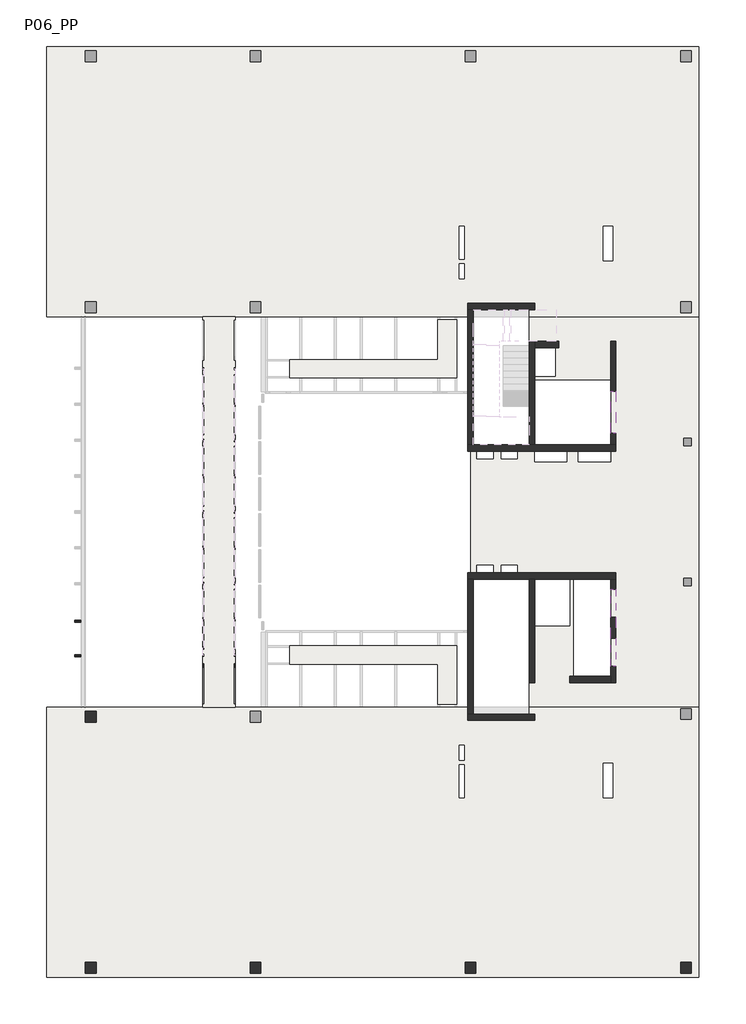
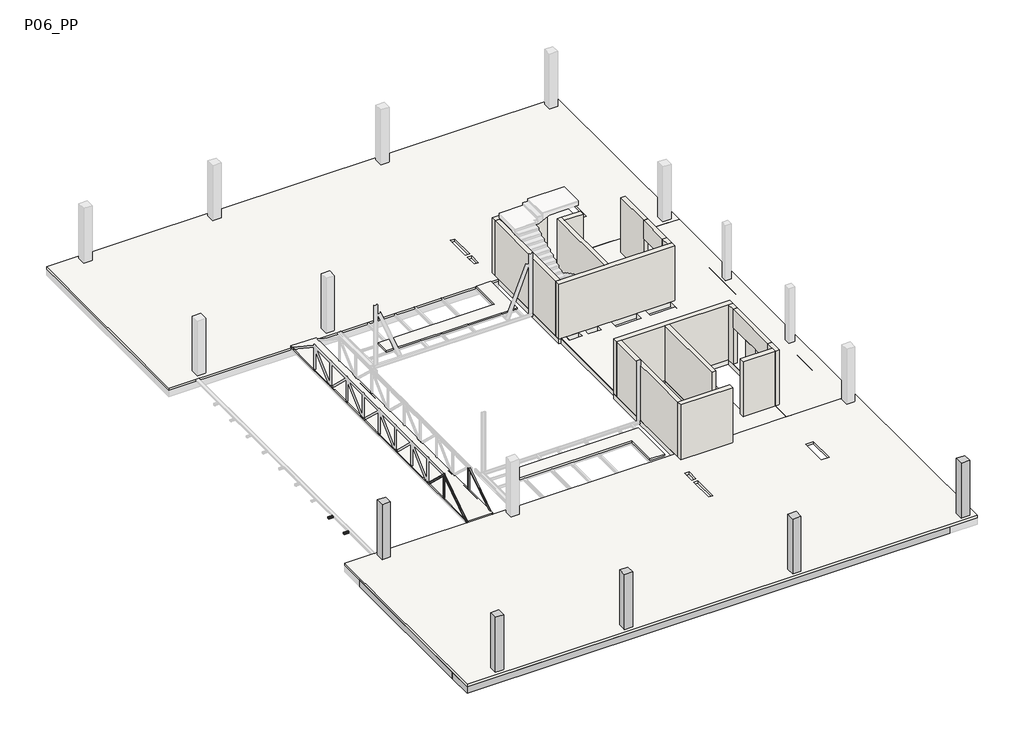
# One storey, part 1 of 4: 20 beams, 17 walls, 5 columns, 5 slabs.
"""IFC4 building model written with IfcOpenShell, lengths in millimetres."""

from ifc_helpers import new_model, si_unit, frame, origin, place, context, project, spatial, polyline, outline, extrude, faceted_brep, transform, mapped, element, save
from components import m_hss_rectangular_hss_100x100_2c18bcb8, m_hss_rectangular_hss_100x100_facdedd0, upn100x50_d5197bc7, upn100x50_71922e7b, upn100x50_7fc6c248, upn100x50_af2dad4c, upn100x50_5f90f948, upn100x50_d0d35084

model = new_model("IFC4")

# Units and contexts
model_context = context("Model", 3, world=origin())
ifc_project = project(units=[si_unit("LENGTHUNIT", "METRE", prefix="MILLI")], contexts=[model_context])

# Site, building, storey
site = spatial("IfcSite", under=ifc_project)
building = spatial("IfcBuilding", under=site)
storey = spatial("IfcBuildingStorey", under=building, Name="P06_PP", Elevation=29910.0)

# Beams
placement = place(None, origin())
element("IfcBeam", 1, ObjectType="M_Concrete-Rectangular Beam : 1500 x 550mm", at=placement, inside=storey, context=model_context, shape_type="Brep", body=[
    faceted_brep([(-33190.2931093, -17110.5871866, 29360.0), (-4553.6343046, -17110.5871866, 29360.0), (-4553.6343046, -17110.5871866, 29760.0), (-33190.2931093, -17110.5871866, 29760.0), (-33190.2931093, -15610.5871866, 29360.0), (-32490.2931093, -15610.5871866, 29360.0), (-31216.2708024, -15610.5871866, 29360.0), (-30816.2708024, -15610.5871866, 29360.0), (-29549.6041367, -15610.5871866, 29360.0), (-29149.6041367, -15610.5871866, 29360.0), (-27882.9374731, -15610.5871866, 29360.0), (-27482.9374731, -15610.5871866, 29360.0), (-26216.2708089, -15610.5871866, 29360.0), (-25816.2708089, -15610.5871866, 29360.0), (-24549.6041453, -15610.5871866, 29360.0), (-24149.6041453, -15610.5871866, 29360.0), (-22882.9374805, -15610.5871866, 29360.0), (-22482.9374805, -15610.5871866, 29360.0), (-21216.2708168, -15610.5871866, 29360.0), (-20816.2708168, -15610.5871866, 29360.0), (-19549.6041539, -15610.5871866, 29360.0), (-19149.6041539, -15610.5871866, 29360.0), (-17882.9374898, -15610.5871866, 29360.0), (-17482.9374898, -15610.5871866, 29360.0), (-16216.2708252, -15610.5871866, 29360.0), (-15816.2708252, -15610.5871866, 29360.0), (-14549.604161, -15610.5871866, 29360.0), (-14149.604161, -15610.5871866, 29360.0), (-12882.9374977, -15610.5871866, 29360.0), (-12482.9374977, -15610.5871866, 29360.0), (-11216.2708336, -15610.5871866, 29360.0), (-10816.2708336, -15610.5871866, 29360.0), (-9549.6041702, -15610.5871866, 29360.0), (-9149.6041702, -15610.5871866, 29360.0), (-7882.9375051, -15610.5871866, 29360.0), (-7482.9375051, -15610.5871866, 29360.0), (-6216.2708415, -15610.5871866, 29360.0), (-5816.2708415, -15610.5871866, 29360.0), (-4553.6343046, -15610.5871866, 29360.0), (-13265.9144385, -16910.4373111, 29360.0), (-13265.9144455, -16410.4373111, 29360.0), (-13765.9144455, -16410.4373181, 29360.0), (-13765.9144385, -16910.4373181, 29360.0), (-23240.7710375, -16910.4370227, 29360.0), (-23240.7710406, -16410.4370227, 29360.0), (-23740.7710406, -16410.4370258, 29360.0), (-23740.7710375, -16910.4370258, 29360.0), (-30890.9064219, -16910.4378471, 29360.0), (-30890.9064256, -16410.4378471, 29360.0), (-31390.9064256, -16410.4378508, 29360.0), (-31390.9064219, -16910.4378508, 29360.0), (-33190.2931093, -15610.5871866, 29760.0), (-32490.2931093, -15610.5871866, 29760.0), (-31216.2708024, -15610.5871866, 29760.0), (-30816.2708024, -15610.5871866, 29760.0), (-29549.6041367, -15610.5871866, 29760.0), (-29149.6041367, -15610.5871866, 29760.0), (-27882.9374731, -15610.5871866, 29760.0), (-27482.9374731, -15610.5871866, 29760.0), (-26216.2708089, -15610.5871866, 29760.0), (-25816.2708089, -15610.5871866, 29760.0), (-24549.6041453, -15610.5871866, 29760.0), (-24149.6041453, -15610.5871866, 29760.0), (-22882.9374805, -15610.5871866, 29760.0), (-22482.9374805, -15610.5871866, 29760.0), (-21216.2708168, -15610.5871866, 29760.0), (-20816.2708168, -15610.5871866, 29760.0), (-19549.6041539, -15610.5871866, 29760.0), (-19149.6041539, -15610.5871866, 29760.0), (-17882.9374898, -15610.5871866, 29760.0), (-17482.9374898, -15610.5871866, 29760.0), (-16216.2708252, -15610.5871866, 29760.0), (-15816.2708252, -15610.5871866, 29760.0), (-14549.604161, -15610.5871866, 29760.0), (-14149.604161, -15610.5871866, 29760.0), (-12882.9374977, -15610.5871866, 29760.0), (-12482.9374977, -15610.5871866, 29760.0), (-11216.2708336, -15610.5871866, 29760.0), (-10816.2708336, -15610.5871866, 29760.0), (-9549.6041702, -15610.5871866, 29760.0), (-9149.6041702, -15610.5871866, 29760.0), (-7882.9375051, -15610.5871866, 29760.0), (-7482.9375051, -15610.5871866, 29760.0), (-6216.2708415, -15610.5871866, 29760.0), (-5816.2708415, -15610.5871866, 29760.0), (-4553.6343046, -15610.5871866, 29760.0), (-13265.9144385, -16910.4373111, 29610.0), (-13265.9144455, -16410.4373111, 29610.0), (-13765.9144385, -16910.4373181, 29610.0), (-13765.9144455, -16410.4373181, 29610.0), (-23240.7710375, -16910.4370227, 29610.0), (-23240.7710406, -16410.4370227, 29610.0), (-23740.7710375, -16910.4370258, 29610.0), (-23740.7710406, -16410.4370258, 29610.0), (-30890.9064219, -16910.4378471, 29610.0), (-30890.9064256, -16410.4378471, 29610.0), (-31390.9064219, -16910.4378508, 29610.0), (-31390.9064256, -16410.4378508, 29610.0)], [[[0, 1, 2, 3]], [[0, 4, 5, 6, 7, 8, 9, 10, 11, 12, 13, 14, 15, 16, 17, 18, 19, 20, 21, 22, 23, 24, 25, 26, 27, 28, 29, 30, 31, 32, 33, 34, 35, 36, 37, 38, 1], [39, 40, 41, 42], [43, 44, 45, 46], [47, 48, 49, 50]], [[38, 37, 36, 35, 34, 33, 32, 31, 30, 29, 28, 27, 26, 25, 24, 23, 22, 21, 20, 19, 18, 17, 16, 15, 14, 13, 12, 11, 10, 9, 8, 7, 6, 5, 4, 51, 52, 53, 54, 55, 56, 57, 58, 59, 60, 61, 62, 63, 64, 65, 66, 67, 68, 69, 70, 71, 72, 73, 74, 75, 76, 77, 78, 79, 80, 81, 82, 83, 84, 85]], [[4, 0, 3, 51]], [[1, 38, 85, 2]], [[86, 87, 40, 39]], [[88, 86, 39, 42]], [[89, 88, 42, 41]], [[87, 89, 41, 40]], [[87, 86, 88, 89]], [[90, 91, 44, 43]], [[92, 90, 43, 46]], [[93, 92, 46, 45]], [[91, 93, 45, 44]], [[91, 90, 92, 93]], [[94, 95, 48, 47]], [[96, 94, 47, 50]], [[97, 96, 50, 49]], [[95, 97, 49, 48]], [[95, 94, 96, 97]], [[3, 2, 85, 84, 83, 82, 81, 80, 79, 78, 77, 76, 75, 74, 73, 72, 71, 70, 69, 68, 67, 66, 65, 64, 63, 62, 61, 60, 59, 58, 57, 56, 55, 54, 53, 52, 51]]]),
])
element("IfcBeam", 2, ObjectType="M_Concrete-Rectangular Beam : 400 x 550mm", at=placement, inside=storey, context=model_context, shape_type="SweptSolid", body=[
    extrude(outline(polyline([(-31216.2708024, -6060.5861501), (-30816.2708024, -6060.5861501), (-30816.2708024, -15610.5871866), (-31216.2708024, -15610.5871866), (-31216.2708024, -6060.5861501)])), frame((0.0, 0.0, 29360.0), z_axis=(0.0, 0.0, 1.0), x_axis=(1.0, 0.0, 0.0)), (0.0, 0.0, 1.0), 400.0),
])
element("IfcBeam", 3, ObjectType="M_Concrete-Rectangular Beam : 400 x 550mm", at=placement, inside=storey, context=model_context, shape_type="SweptSolid", body=[
    extrude(outline(polyline([(-29549.6041367, -6060.5861501), (-29149.6041367, -6060.5861501), (-29149.6041367, -15610.5871866), (-29549.6041367, -15610.5871866), (-29549.6041367, -6060.5861501)])), frame((0.0, 0.0, 29360.0), z_axis=(0.0, 0.0, 1.0), x_axis=(1.0, 0.0, 0.0)), (0.0, 0.0, 1.0), 400.0),
])
element("IfcBeam", 4, ObjectType="M_Concrete-Rectangular Beam : 400 x 550mm", at=placement, inside=storey, context=model_context, shape_type="SweptSolid", body=[
    extrude(outline(polyline([(-27882.9374731, -6060.5861501), (-27482.9374731, -6060.5861501), (-27482.9374731, -15610.5871866), (-27882.9374731, -15610.5871866), (-27882.9374731, -6060.5861501)])), frame((0.0, 0.0, 29360.0), z_axis=(0.0, 0.0, 1.0), x_axis=(1.0, 0.0, 0.0)), (0.0, 0.0, 1.0), 400.0),
])
element("IfcBeam", 5, ObjectType="M_Concrete-Rectangular Beam : 400 x 550mm", at=placement, inside=storey, context=model_context, shape_type="SweptSolid", body=[
    extrude(outline(polyline([(-26216.2708089, -6060.5861501), (-25816.2708089, -6060.5861501), (-25816.2708089, -15610.5871866), (-26216.2708089, -15610.5871866), (-26216.2708089, -6060.5861501)])), frame((0.0, 0.0, 29360.0), z_axis=(0.0, 0.0, 1.0), x_axis=(1.0, 0.0, 0.0)), (0.0, 0.0, 1.0), 400.0),
])
element("IfcBeam", 6, ObjectType="M_Concrete-Rectangular Beam : 400 x 550mm", at=placement, inside=storey, context=model_context, shape_type="SweptSolid", body=[
    extrude(outline(polyline([(-24549.6041453, -6060.5861501), (-24149.6041453, -6060.5861501), (-24149.6041453, -15610.5871866), (-24549.6041453, -15610.5871866), (-24549.6041453, -6060.5861501)])), frame((0.0, 0.0, 29360.0), z_axis=(0.0, 0.0, 1.0), x_axis=(1.0, 0.0, 0.0)), (0.0, 0.0, 1.0), 400.0),
])
element("IfcBeam", 7, ObjectType="M_Concrete-Rectangular Beam : 400 x 550mm", at=placement, inside=storey, context=model_context, shape_type="SweptSolid", body=[
    extrude(outline(polyline([(-22882.9374805, -6060.5861501), (-22482.9374805, -6060.5861501), (-22482.9374805, -15610.5871866), (-22882.9374805, -15610.5871866), (-22882.9374805, -6060.5861501)])), frame((0.0, 0.0, 29360.0), z_axis=(0.0, 0.0, 1.0), x_axis=(1.0, 0.0, 0.0)), (0.0, 0.0, 1.0), 400.0),
])
element("IfcBeam", 8, ObjectType="M_Concrete-Rectangular Beam : 400 x 550mm", at=placement, inside=storey, context=model_context, shape_type="SweptSolid", body=[
    extrude(outline(polyline([(-21216.2708168, -6060.5861501), (-20816.2708168, -6060.5861501), (-20816.2708168, -15610.5871866), (-21216.2708168, -15610.5871866), (-21216.2708168, -6060.5861501)])), frame((0.0, 0.0, 29360.0), z_axis=(0.0, 0.0, 1.0), x_axis=(1.0, 0.0, 0.0)), (0.0, 0.0, 1.0), 400.0),
])
element("IfcBeam", 9, ObjectType="M_Concrete-Rectangular Beam : 400 x 550mm", at=placement, inside=storey, context=model_context, shape_type="SweptSolid", body=[
    extrude(outline(polyline([(-19549.6041539, -6060.5861501), (-19149.6041539, -6060.5861501), (-19149.6041539, -15610.5871866), (-19549.6041539, -15610.5871866), (-19549.6041539, -6060.5861501)])), frame((0.0, 0.0, 29360.0), z_axis=(0.0, 0.0, 1.0), x_axis=(1.0, 0.0, 0.0)), (0.0, 0.0, 1.0), 400.0),
])
element("IfcBeam", 10, ObjectType="M_Concrete-Rectangular Beam : 400 x 550mm", at=placement, inside=storey, context=model_context, shape_type="SweptSolid", body=[
    extrude(outline(polyline([(-17882.9374898, -6060.5861501), (-17482.9374898, -6060.5861501), (-17482.9374898, -15610.5871866), (-17882.9374898, -15610.5871866), (-17882.9374898, -6060.5861501)])), frame((0.0, 0.0, 29360.0), z_axis=(0.0, 0.0, 1.0), x_axis=(1.0, 0.0, 0.0)), (0.0, 0.0, 1.0), 400.0),
])
element("IfcBeam", 11, ObjectType="M_Concrete-Rectangular Beam : 400 x 550mm", at=placement, inside=storey, context=model_context, shape_type="SweptSolid", body=[
    extrude(outline(polyline([(-16216.2708252, -6060.5861501), (-15816.2708252, -6060.5861501), (-15816.2708252, -15610.5871866), (-16216.2708252, -15610.5871866), (-16216.2708252, -6060.5861501)])), frame((0.0, 0.0, 29360.0), z_axis=(0.0, 0.0, 1.0), x_axis=(1.0, 0.0, 0.0)), (0.0, 0.0, 1.0), 400.0),
])
element("IfcBeam", 12, ObjectType="M_Concrete-Rectangular Beam : 700 x 550mm", at=placement, inside=storey, context=model_context, shape_type="SweptSolid", body=[
    extrude(outline(polyline([(-33190.2931093, -6060.5861501), (-32490.2931093, -6060.5861501), (-32490.2931093, -15610.5871866), (-33190.2931093, -15610.5871866), (-33190.2931093, -6060.5861501)])), frame((0.0, 0.0, 29360.0), z_axis=(0.0, 0.0, 1.0), x_axis=(1.0, 0.0, 0.0)), (0.0, 0.0, 1.0), 400.0),
])
m_hss_rectangular_hss_100x100_shape = m_hss_rectangular_hss_100x100_2c18bcb8(model_context)
element("IfcBeam", 13, ObjectType="M_HSS Rectangular : HSS 100x100", at=placement, inside=storey, context=model_context, shape_type="MappedRepresentation", body=[
    mapped(m_hss_rectangular_hss_100x100_shape, transform((-31731.1858334, -2176.9039318, 29860.0), x_axis=(-1.0, 1.6626039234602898e-09, 0.0), y_axis=(-1.6626039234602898e-09, -1.0, 0.0), z_axis=(0.0, 0.0, 1.0))),
])
m_hss_rectangular_hss_100x100_2_shape = m_hss_rectangular_hss_100x100_facdedd0(model_context)
element("IfcBeam", 14, ObjectType="M_HSS Rectangular : HSS 100x100", at=placement, inside=storey, context=model_context, shape_type="MappedRepresentation", body=[
    mapped(m_hss_rectangular_hss_100x100_2_shape, transform((-31731.1858341, -574.5425186, 29860.0), x_axis=(-1.0, 1.662603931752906e-09, 0.0), y_axis=(-1.662603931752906e-09, -1.0, 0.0), z_axis=(0.0, 0.0, 1.0))),
])
upn100x50_shape = upn100x50_d5197bc7(model_context)
element("IfcBeam", 15, ObjectType="M_MC Shapes : UPN100x50", at=placement, inside=storey, context=model_context, shape_type="MappedRepresentation", body=[
    mapped(upn100x50_shape, transform((-25184.5845147, -2136.4361027, 29860.0), x_axis=(1.0, 0.0, 0.0), y_axis=(0.0, 1.0, 0.0), z_axis=(0.0, 0.0, 1.0))),
])
upn100x50_2_shape = upn100x50_71922e7b(model_context)
element("IfcBeam", 16, ObjectType="M_MC Shapes : UPN100x50", at=placement, inside=storey, context=model_context, shape_type="MappedRepresentation", body=[
    mapped(upn100x50_2_shape, transform((-25906.3198148, -2150.5859995, 30750.0), x_axis=(0.0, 0.0, 1.0), y_axis=(-1.0, 0.0, 0.0), z_axis=(0.0, -1.0, 0.0))),
])
upn100x50_3_shape = upn100x50_7fc6c248(model_context)
element("IfcBeam", 17, ObjectType="M_MC Shapes : UPN100x50", at=placement, inside=storey, context=model_context, shape_type="MappedRepresentation", body=[
    mapped(upn100x50_3_shape, transform((-25906.3198148, -1370.5250704, 30697.5323686), x_axis=(0.0, -0.724345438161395, 0.6894372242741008), y_axis=(-1.0, 0.0, 0.0), z_axis=(0.0, -0.6894372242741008, -0.724345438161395))),
])
upn100x50_4_shape = upn100x50_af2dad4c(model_context)
element("IfcBeam", 18, ObjectType="M_MC Shapes : UPN100x50", at=placement, inside=storey, context=model_context, shape_type="MappedRepresentation", body=[
    mapped(upn100x50_4_shape, transform((-25906.3198148, -3309.7336461, 30680.060814), x_axis=(0.0, -0.8362965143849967, -0.5482774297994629), y_axis=(-1.0, 0.0, 0.0), z_axis=(0.0, 0.5482774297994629, -0.8362965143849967))),
])
upn100x50_5_shape = upn100x50_5f90f948(model_context)
element("IfcBeam", 19, ObjectType="M_MC Shapes : UPN100x50", at=placement, inside=storey, context=model_context, shape_type="MappedRepresentation", body=[
    mapped(upn100x50_5_shape, transform((-24462.8492146, -2150.5859995, 30750.0), x_axis=(0.0, 0.0, 1.0), y_axis=(-1.0, 0.0, 0.0), z_axis=(0.0, -1.0, 0.0))),
])
upn100x50_6_shape = upn100x50_d0d35084(model_context)
element("IfcBeam", 20, ObjectType="M_MC Shapes : UPN100x50", at=placement, inside=storey, context=model_context, shape_type="MappedRepresentation", body=[
    mapped(upn100x50_6_shape, transform((-24462.8492146, -3309.7336461, 30680.060814), x_axis=(0.0, -0.8362965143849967, -0.5482774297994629), y_axis=(-1.0, 0.0, 0.0), z_axis=(0.0, 0.5482774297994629, -0.8362965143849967))),
])

# Columns
element("IfcColumn", 21, ObjectType="Concrete-Rectangular-Column : Pilar_Rectangular-Formigo-500x500", at=placement, inside=storey, context=model_context, shape_type="Brep", body=[
    faceted_brep([(-3265.7676334, -16410.1049644, 29910.0), (-3265.767632, -16910.1049644, 29910.0), (-3765.767632, -16910.1049658, 29910.0), (-3765.7676334, -16410.1049658, 29910.0), (-3265.7676334, -16410.1049644, 33360.0), (-3265.767632, -16910.1049644, 33360.0), (-3265.767632, -16910.1049644, 33110.0), (-3265.7676334, -16410.1049644, 33110.0), (-3765.767632, -16910.1049658, 33360.0), (-3765.767632, -16910.1049658, 33110.0), (-3765.7676334, -16410.1049658, 33360.0), (-3765.7676334, -16410.1049658, 33110.0)], [[[0, 1, 2, 3]], [[4, 5, 6, 1, 0, 7]], [[5, 8, 9, 2, 1, 6]], [[8, 10, 11, 3, 2, 9]], [[10, 4, 7, 0, 3, 11]], [[4, 10, 8, 5]]]),
])
element("IfcColumn", 22, ObjectType="Concrete-Rectangular-Column : Pilar_Rectangular-Formigo-500x500", at=placement, inside=storey, context=model_context, shape_type="Brep", body=[
    faceted_brep([(-13265.318425, -16410.1049686, 29910.0), (-13265.318426, -16910.1049686, 29910.0), (-13765.318426, -16910.1049676, 29910.0), (-13765.318425, -16410.1049676, 29910.0), (-13265.318425, -16410.1049686, 33360.0), (-13265.318426, -16910.1049686, 33360.0), (-13265.318426, -16910.1049686, 33110.0), (-13265.318425, -16410.1049686, 33110.0), (-13765.318426, -16910.1049676, 33360.0), (-13765.318426, -16910.1049676, 33110.0), (-13765.318425, -16410.1049676, 33360.0), (-13765.318425, -16410.1049676, 33110.0)], [[[0, 1, 2, 3]], [[4, 5, 6, 1, 0, 7]], [[5, 8, 9, 2, 1, 6]], [[8, 10, 11, 3, 2, 9]], [[10, 4, 7, 0, 3, 11]], [[4, 10, 8, 5]]]),
])
element("IfcColumn", 23, ObjectType="Concrete-Rectangular-Column : Pilar_Rectangular-Formigo-500x500", at=placement, inside=storey, context=model_context, shape_type="Brep", body=[
    faceted_brep([(-23240.1750292, -16410.1046906, 29910.0), (-23240.1750348, -16910.1046906, 29910.0), (-23740.1750348, -16910.104685, 29910.0), (-23740.1750292, -16410.104685, 29910.0), (-23240.1750292, -16410.1046906, 33360.0), (-23240.1750348, -16910.1046906, 33360.0), (-23240.1750348, -16910.1046906, 33110.0), (-23240.1750292, -16410.1046906, 33110.0), (-23740.1750348, -16910.104685, 33360.0), (-23740.1750348, -16910.104685, 33110.0), (-23740.1750292, -16410.104685, 33360.0), (-23740.1750292, -16410.104685, 33110.0)], [[[0, 1, 2, 3]], [[4, 5, 6, 1, 0, 7]], [[5, 8, 9, 2, 1, 6]], [[8, 10, 11, 3, 2, 9]], [[10, 4, 7, 0, 3, 11]], [[4, 10, 8, 5]]]),
])
element("IfcColumn", 24, ObjectType="Concrete-Rectangular-Column : Pilar_Rectangular-Formigo-500x500", at=placement, inside=storey, context=model_context, shape_type="Brep", body=[
    faceted_brep([(-30890.3104022, -16410.1054999, 29910.0), (-30890.3104055, -16910.1054999, 29910.0), (-31390.3104055, -16910.1054966, 29910.0), (-31390.3104022, -16410.1054966, 29910.0), (-30890.3104022, -16410.1054999, 33360.0), (-30890.3104055, -16910.1054999, 33360.0), (-30890.3104055, -16910.1054999, 33110.0), (-30890.3104022, -16410.1054999, 33110.0), (-31390.3104055, -16910.1054966, 33360.0), (-31390.3104055, -16910.1054966, 33110.0), (-31390.3104022, -16410.1054966, 33360.0), (-31390.3104022, -16410.1054966, 33110.0)], [[[0, 1, 2, 3]], [[4, 5, 6, 1, 0, 7]], [[5, 8, 9, 2, 1, 6]], [[8, 10, 11, 3, 2, 9]], [[10, 4, 7, 0, 3, 11]], [[4, 10, 8, 5]]]),
])
element("IfcColumn", 25, ObjectType="Concrete-Rectangular-Column : Pilar_Rectangular-Formigo-500x500", at=placement, inside=storey, context=model_context, shape_type="Brep", body=[
    faceted_brep([(-30890.359557, -4760.1050076, 29910.0), (-30890.3595586, -5260.1050076, 29910.0), (-31390.3595586, -5260.105006, 29910.0), (-31390.359557, -4760.105006, 29910.0), (-30890.359557, -4760.1050076, 33360.0), (-30890.3595586, -5260.1050076, 33360.0), (-30890.3595586, -5260.1050076, 33110.0), (-30890.359557, -4760.1050076, 33110.0), (-31390.3595586, -5260.105006, 33360.0), (-31390.3595586, -5260.105006, 33110.0), (-31390.359557, -4760.105006, 33360.0), (-31390.359557, -4760.105006, 33110.0)], [[[0, 1, 2, 3]], [[4, 5, 6, 1, 0, 7]], [[5, 8, 9, 2, 1, 6]], [[8, 10, 11, 3, 2, 9]], [[10, 4, 7, 0, 3, 11]], [[4, 10, 8, 5]]]),
])

# Slabs
element("IfcSlab", 26, ObjectType="Forjat_Llosa-Relliga-100", at=placement, inside=storey, context=model_context, shape_type="SweptSolid", body=[
    extrude(outline(polyline([(-25940.4198148, -4560.5857971), (-25940.4198148, 13539.4138006), (-24423.7492146, 13539.4138023), (-24423.7492146, -4560.5857971), (-25940.4198148, -4560.5857971)])), frame((0.0, 0.0, 29910.0), z_axis=(0.0, 0.0, 1.0), x_axis=(1.0, 0.0, 0.0)), (0.0, 0.0, 1.0), 100.0),
])
element("IfcSlab", 27, ObjectType="Forjat_Llosa-Formigo-300", at=placement, inside=storey, context=model_context, shape_type="SweptSolid", body=[
    extrude(outline(polyline([(-2913.2447506, 13539.4137933), (-2913.2447506, -4560.5857969), (-10790.2146087, -4560.5857969), (-10790.2146087, 1364.8960692), (-13390.3216429, 1364.8960692), (-13390.3216429, -4560.5857969), (-13640.2931098, -4560.5857969), (-13640.2931098, 1664.8960692), (-13515.3216429, 1664.8960692), (-13515.3216412, 7314.8960673), (-13640.2931098, 7314.8960673), (-13640.2931098, 13539.4137933), (-13390.3216429, 13539.4137933), (-13390.3216429, 7614.8960673), (-10790.2146087, 7614.8960673), (-10790.2146087, 13539.4137933), (-2913.2447506, 13539.4137933)]), holes=[polyline([(-8915.3273673, -795.1004405), (-8915.3273673, 1364.8960692), (-10540.2146087, 1364.8960692), (-10540.2146087, -795.1004405), (-8915.3273673, -795.1004405)]), polyline([(-7015.32737, -3135.1012912), (-7015.32737, 1364.8960692), (-8715.3273692, 1364.8960692), (-8715.3273692, -3135.1012912), (-7015.32737, -3135.1012912)]), polyline([(-7015.3216444, 10594.8839421), (-10540.2146087, 10594.8839421), (-10540.2146087, 7614.8960673), (-7015.3216444, 7614.8960673), (-7015.3216444, 10594.8839421)]), polyline([(-9575.3241515, 12114.8934277), (-10540.2146087, 12114.8934277), (-10540.2146087, 10794.8973525), (-9575.3241515, 10794.8973525), (-9575.3241515, 12114.8934277)]), polyline([(-12465.3183759, 6964.8891848), (-12465.3183704, 7314.8960673), (-13215.3183723, 7314.8960673), (-13215.3183768, 6964.8891841), (-12465.3183759, 6964.8891848)]), polyline([(-12090.3183694, 6964.8891882), (-11340.3183722, 6964.8891882), (-11340.3183685, 7314.8960673), (-12090.3183704, 7314.8960673), (-12090.3183694, 6964.8891882)]), polyline([(-12465.317339, 2014.8973051), (-13215.3183744, 2014.8973051), (-13215.3183744, 1664.8968204), (-12465.317339, 1664.8968204), (-12465.317339, 2014.8973051)]), polyline([(-11340.3173363, 2014.8973051), (-12090.3183821, 2014.8973051), (-12090.3183821, 1664.8968204), (-11340.3173363, 1664.8968204), (-11340.3173363, 2014.8973051)]), polyline([(-9040.3216312, 7314.8929869), (-10540.3361965, 7314.8929869), (-10540.3361965, 6814.888132), (-9040.3216312, 6814.888132), (-9040.3216312, 7314.8929869)]), polyline([(-7015.3241584, 7314.892988), (-8515.3387237, 7314.892988), (-8515.3387237, 6814.888133), (-7015.3241584, 6814.888133), (-7015.3241584, 7314.892988)])]), frame((0.0, 0.0, 29610.0), z_axis=(0.0, 0.0, 1.0), x_axis=(1.0, 0.0, 0.0)), (0.0, 0.0, 1.0), 300.0),
])
element("IfcSlab", 28, ObjectType="Forjat_Llosa-Formigo-150", at=placement, inside=storey, context=model_context, shape_type="Brep", body=[
    faceted_brep([(-33190.2931069, 13539.4137942, 29760.0), (-33190.2931069, 15039.4134441, 29760.0), (-33190.2931069, 24589.4144807, 29760.0), (-33190.2931069, 26089.4138015, 29760.0), (-2913.6636999, 26089.4138015, 29760.0), (-2913.6636999, 13539.4137942, 29760.0), (-10790.2146087, 13539.4137942, 29760.0), (-10790.2146087, 13864.8960677, 29760.0), (-13390.3216429, 13864.8960677, 29760.0), (-13390.3216429, 13539.4137942, 29760.0), (-7355.3596943, 17755.5003122, 29760.0), (-7355.3596935, 16143.9281337, 29760.0), (-6905.3202486, 16143.9281335, 29760.0), (-6905.3202496, 17755.5003116, 29760.0), (-13795.316559, 16015.6292353, 29760.0), (-14045.3165543, 16015.6292358, 29760.0), (-14045.3165545, 15315.6292377, 29760.0), (-13795.3165589, 15315.629238, 29760.0), (-13795.3165592, 17754.0479176, 29760.0), (-14045.3165588, 17754.0479187, 29760.0), (-14045.3165585, 16215.6292373, 29760.0), (-13795.316559, 16215.629237, 29760.0), (-33190.2931069, 26089.4138015, 29910.0), (-33190.2931069, 13539.4137942, 29910.0), (-13390.3216429, 13539.4137942, 29910.0), (-13390.3216429, 13864.8960677, 29910.0), (-10790.2146087, 13864.8960677, 29910.0), (-10790.2146087, 13539.4137942, 29910.0), (-7015.3241677, 13539.4137942, 29910.0), (-6715.3241677, 13539.4137942, 29910.0), (-3763.6343046, 13539.4137942, 29910.0), (-2913.6636999, 13539.4137942, 29910.0), (-2913.6636999, 26089.4138015, 29910.0), (-7355.3596935, 16143.9281337, 29910.0), (-7355.3596943, 17755.5003122, 29910.0), (-6905.3202496, 17755.5003116, 29910.0), (-6905.3202486, 16143.9281335, 29910.0), (-14045.3165543, 16015.6292358, 29910.0), (-13795.316559, 16015.6292353, 29910.0), (-13795.3165589, 15315.629238, 29910.0), (-14045.3165545, 15315.6292377, 29910.0), (-14045.3165588, 17754.0479187, 29910.0), (-13795.3165592, 17754.0479176, 29910.0), (-13795.316559, 16215.629237, 29910.0), (-14045.3165585, 16215.6292373, 29910.0)], [[[0, 1, 2, 3, 4, 5, 6, 7, 8, 9], [10, 11, 12, 13], [14, 15, 16, 17], [18, 19, 20, 21]], [[22, 23, 24, 25, 26, 27, 28, 29, 30, 31, 32], [33, 34, 35, 36], [37, 38, 39, 40], [41, 42, 43, 44]], [[23, 0, 9, 24]], [[5, 31, 30, 29, 28, 27, 6]], [[3, 2, 1, 0, 23, 22]], [[4, 3, 22, 32]], [[5, 4, 32, 31]], [[7, 26, 25, 8]], [[8, 25, 24, 9]], [[26, 7, 6, 27]], [[10, 34, 33, 11]], [[11, 33, 36, 12]], [[12, 36, 35, 13]], [[34, 10, 13, 35]], [[14, 38, 37, 15]], [[15, 37, 40, 16]], [[16, 40, 39, 17]], [[38, 14, 17, 39]], [[18, 42, 41, 19]], [[19, 41, 44, 20]], [[20, 44, 43, 21]], [[42, 18, 21, 43]]]),
    faceted_brep([(-33190.2931093, -17110.5868311, 29760.0), (-33190.2931093, -15610.5871866, 29760.0), (-33190.2931093, -6060.5861501, 29760.0), (-33190.2931093, -4560.5857933, 29760.0), (-13390.3216429, -4560.5857933, 29760.0), (-13390.3216429, -4885.1039312, 29760.0), (-10790.2146087, -4885.1039312, 29760.0), (-10790.2146087, -4560.5857933, 29760.0), (-2913.6636999, -4560.5857933, 29760.0), (-2913.6636999, -17110.5868311, 29760.0), (-7355.3596943, -8775.7081757, 29760.0), (-6905.3202496, -8775.7081751, 29760.0), (-6905.3202486, -7164.135997, 29760.0), (-7355.3596935, -7164.1359972, 29760.0), (-13795.316559, -7035.8370988, 29760.0), (-13795.3165589, -6335.8371015, 29760.0), (-14045.3165545, -6335.8371012, 29760.0), (-14045.3165543, -7035.8370994, 29760.0), (-13795.3165592, -8774.2557811, 29760.0), (-13795.316559, -7235.8371005, 29760.0), (-14045.3165585, -7235.8371008, 29760.0), (-14045.3165588, -8774.2557822, 29760.0), (-33190.2931093, -4560.5857933, 29910.0), (-33190.2931093, -17110.5868311, 29910.0), (-2913.6636999, -17110.5868311, 29910.0), (-2913.6636999, -4560.5857933, 29910.0), (-3763.6343046, -4560.5857933, 29910.0), (-6715.3241677, -4560.5857933, 29910.0), (-7015.3241677, -4560.5857933, 29910.0), (-10790.2146087, -4560.5857933, 29910.0), (-10790.2146087, -4885.1039312, 29910.0), (-13390.3216429, -4885.1039312, 29910.0), (-13390.3216429, -4560.5857933, 29910.0), (-6905.3202496, -8775.7081751, 29910.0), (-7355.3596943, -8775.7081757, 29910.0), (-7355.3596935, -7164.1359972, 29910.0), (-6905.3202486, -7164.135997, 29910.0), (-13795.3165589, -6335.8371015, 29910.0), (-13795.316559, -7035.8370988, 29910.0), (-14045.3165543, -7035.8370994, 29910.0), (-14045.3165545, -6335.8371012, 29910.0), (-13795.316559, -7235.8371005, 29910.0), (-13795.3165592, -8774.2557811, 29910.0), (-14045.3165588, -8774.2557822, 29910.0), (-14045.3165585, -7235.8371008, 29910.0)], [[[0, 1, 2, 3, 4, 5, 6, 7, 8, 9], [10, 11, 12, 13], [14, 15, 16, 17], [18, 19, 20, 21]], [[22, 23, 24, 25, 26, 27, 28, 29, 30, 31, 32], [33, 34, 35, 36], [37, 38, 39, 40], [41, 42, 43, 44]], [[3, 2, 1, 0, 23, 22]], [[3, 22, 32, 4]], [[25, 8, 7, 29, 28, 27, 26]], [[9, 8, 25, 24]], [[0, 9, 24, 23]], [[6, 30, 29, 7]], [[31, 5, 4, 32]], [[30, 6, 5, 31]], [[10, 34, 33, 11]], [[11, 33, 36, 12]], [[12, 36, 35, 13]], [[34, 10, 13, 35]], [[14, 38, 37, 15]], [[15, 37, 40, 16]], [[16, 40, 39, 17]], [[38, 14, 17, 39]], [[18, 42, 41, 19]], [[19, 41, 44, 20]], [[20, 44, 43, 21]], [[42, 18, 21, 43]]]),
])
element("IfcSlab", 29, ObjectType="Forjat_Llosa-Relliga-100", at=placement, inside=storey, context=model_context, shape_type="SweptSolid", body=[
    extrude(outline(polyline([(-21915.4459309, -2583.0874625), (-21915.4459314, -1728.0871839), (-14149.4459331, -1728.0871839), (-14149.4459331, -4439.621344), (-15031.4459326, -4439.621344), (-15031.4459326, -2583.0874625), (-21915.4459309, -2583.0874625)])), frame((0.0, 0.0, 29910.0), z_axis=(0.0, 0.0, 1.0), x_axis=(1.0, 0.0, 0.0)), (0.0, 0.0, 1.0), 100.0),
])
element("IfcSlab", 30, ObjectType="Forjat_Llosa-Relliga-100", at=placement, inside=storey, context=model_context, shape_type="SweptSolid", body=[
    extrude(outline(polyline([(-21915.4459309, 11562.8793206), (-15031.4459326, 11562.8793206), (-15031.4459326, 13419.4132021), (-14149.4459331, 13419.4132021), (-14149.4459331, 10707.879042), (-21915.4459314, 10707.879042), (-21915.4459309, 11562.8793206)])), frame((0.0, 0.0, 29910.0), z_axis=(0.0, 0.0, 1.0), x_axis=(1.0, 0.0, 0.0)), (0.0, 0.0, 1.0), 100.0),
])

# Walls
element("IfcWall", 31, ObjectType="0_Muro Concreto_250", at=placement, inside=storey, context=model_context, shape_type="Brep", body=[
    faceted_brep([(-13640.3216429, 13864.8960687, 29910.0), (-13640.3216429, 7614.8960673, 29910.0), (-13640.3216429, 7614.8960673, 33359.9777344), (-13640.3216429, 13539.4134441, 33359.9777344), (-13640.3216429, 13864.8960687, 33359.9777344), (-13390.3216429, 13864.8960687, 29910.0), (-13390.3216429, 13864.8960687, 33110.0), (-13390.3216429, 13864.8960687, 33359.9777344), (-13390.3216429, 13539.4134441, 33359.9777344), (-13390.3216429, 7614.8960673, 33359.9777344), (-13390.3216429, 7614.8960673, 29910.0)], [[[0, 1, 2, 3, 4]], [[5, 6, 7, 8, 9, 10]], [[1, 0, 5, 10]], [[4, 3, 2, 9, 8, 7]], [[0, 4, 7, 6, 5]], [[2, 1, 10, 9]]]),
])
element("IfcWall", 32, ObjectType="0_Muro Concreto_250", at=placement, inside=storey, context=model_context, shape_type="Brep", body=[
    faceted_brep([(-10790.2146087, 12414.8934136, 29910.0), (-10790.2146087, 7614.8960673, 29910.0), (-10790.2146087, 7614.8960673, 33359.9777344), (-10790.2146087, 12414.8934136, 33359.9777344), (-10540.2146087, 12414.8934136, 29910.0), (-10540.2146087, 12414.8934136, 33359.9777344), (-10540.2146087, 12114.8934136, 33359.9777344), (-10540.2146087, 7614.8960673, 33359.9777344), (-10540.2146087, 7614.8960673, 29910.0), (-10540.2146087, 12114.8934136, 29910.0)], [[[0, 1, 2, 3]], [[4, 5, 6, 7, 8, 9]], [[1, 0, 4, 9, 8]], [[3, 2, 7, 6, 5]], [[0, 3, 5, 4]], [[2, 1, 8, 7]]]),
])
element("IfcWall", 33, ObjectType="0_Muro Concreto_250", at=placement, inside=storey, context=model_context, shape_type="Brep", body=[
    faceted_brep([(-13390.3216429, -4885.1039323, 29910.0), (-13390.3216429, 1364.8960692, 29910.0), (-13390.3216429, 1364.8960692, 33359.9777344), (-13390.3216429, -4560.5861501, 33359.9777344), (-13390.3216429, -4885.1039323, 33359.9777344), (-13390.3216429, -4885.1039323, 33110.0), (-13640.3216429, -4885.1039323, 29910.0), (-13640.3216429, -4885.1039323, 33359.9777344), (-13640.3216429, -4560.5861501, 33359.9777344), (-13640.3216429, 1364.8960692, 33359.9777344), (-13640.3216429, 1364.8960692, 29910.0)], [[[0, 1, 2, 3, 4, 5]], [[6, 7, 8, 9, 10]], [[1, 0, 6, 10]], [[4, 3, 2, 9, 8, 7]], [[0, 5, 4, 7, 6]], [[2, 1, 10, 9]]]),
])
element("IfcWall", 34, ObjectType="0_Muro Concreto_250", at=placement, inside=storey, context=model_context, shape_type="SweptSolid", body=[
    extrude(outline(polyline([(-10540.2146087, 1364.8960692), (-10540.2146087, -3435.1012772), (-10790.2146087, -3435.1012772), (-10790.2146087, 1364.8960692), (-10540.2146087, 1364.8960692)])), frame((0.0, 0.0, 29910.0), z_axis=(0.0, 0.0, 1.0), x_axis=(1.0, 0.0, 0.0)), (0.0, 0.0, 1.0), 3449.9777344),
])
element("IfcWall", 35, ObjectType="0_Muro Concreto_250", at=placement, inside=storey, context=model_context, shape_type="Brep", body=[
    faceted_brep([(-7015.3215862, 12414.8934351, 29910.0), (-7015.3215886, 10084.2914836, 29910.0), (-7015.3215886, 10084.2914836, 32210.0), (-7015.3215886, 10084.2914836, 33359.9777344), (-7015.3215862, 12414.8934351, 33359.9777344), (-6765.3215862, 12414.8934349, 29910.0), (-6765.3215862, 12414.8934349, 33359.9777344), (-6765.3215886, 10084.2914833, 33359.9777344), (-6765.3215886, 10084.2914833, 32210.0), (-6765.3215886, 10084.2914833, 29910.0)], [[[0, 1, 2, 3, 4]], [[5, 6, 7, 8, 9]], [[1, 0, 5, 9]], [[3, 2, 1, 9, 8, 7]], [[4, 3, 7, 6]], [[0, 4, 6, 5]]]),
])
element("IfcWall", 36, ObjectType="0_Muro Concreto_250", at=placement, inside=storey, context=model_context, shape_type="SweptSolid", body=[
    extrude(outline(polyline([(-7015.3216444, 7614.8960673), (-7015.3216444, 8144.2911718), (-6765.3216444, 8144.2911718), (-6765.3216444, 7614.8960673), (-7015.3216444, 7614.8960673)])), frame((0.0, 0.0, 29910.0), z_axis=(0.0, 0.0, 1.0), x_axis=(1.0, 0.0, 0.0)), (0.0, 0.0, 1.0), 3449.9777344),
])
element("IfcWall", 37, ObjectType="0_Muro Concreto_250", at=placement, inside=storey, context=model_context, shape_type="SweptSolid", body=[
    extrude(outline(polyline([(-6765.3247837, -405.0894087), (-6765.3247837, -1365.1031796), (-7015.3247837, -1365.1031796), (-7015.3247837, -405.0894087), (-6765.3247837, -405.0894087)])), frame((0.0, 0.0, 29910.0), z_axis=(0.0, 0.0, 1.0), x_axis=(1.0, 0.0, 0.0)), (0.0, 0.0, 1.0), 2300.0),
])
element("IfcWall", 38, ObjectType="0_Muro Concreto_250", at=placement, inside=storey, context=model_context, shape_type="SweptSolid", body=[
    extrude(outline(polyline([(-6765.3216444, 1364.8960692), (-6765.3247835, 894.9105912), (-7015.3247835, 894.912261), (-7015.3216444, 1364.897739), (-6765.3216444, 1364.8960692)])), frame((0.0, 0.0, 29910.0), z_axis=(0.0, 0.0, 1.0), x_axis=(1.0, 0.0, 0.0)), (0.0, 0.0, 1.0), 3449.9777344),
])
element("IfcWall", 39, ObjectType="0_Muro Concreto_250", at=placement, inside=storey, context=model_context, shape_type="Brep", body=[
    faceted_brep([(-6765.3247845, -3435.1012772, 29910.0), (-6765.3247845, -2665.1031808, 29910.0), (-6765.3247845, -2665.1031808, 32210.0), (-6765.3247845, -2665.1031808, 33359.9777344), (-6765.3247845, -3435.1012772, 33359.9777344), (-7015.3247845, -3435.1012772, 29910.0), (-7015.3247845, -3435.1012772, 33359.9777344), (-7015.3247845, -3135.1012772, 33359.9777344), (-7015.3247845, -2665.1031808, 33359.9777344), (-7015.3247845, -2665.1031808, 32210.0), (-7015.3247845, -2665.1031808, 29910.0), (-7015.3247845, -3135.1012772, 29910.0)], [[[0, 1, 2, 3, 4]], [[5, 6, 7, 8, 9, 10, 11]], [[1, 0, 5, 11, 10]], [[3, 2, 1, 10, 9, 8]], [[4, 3, 8, 7, 6]], [[0, 4, 6, 5]]]),
])
element("IfcWall", 40, ObjectType="0_Muro Concreto_250", at=placement, inside=storey, context=model_context, shape_type="Brep", body=[
    faceted_brep([(-6765.3247835, -2665.1031808, 32210.0), (-6765.3247835, -1365.1031796, 32210.0), (-6765.3247835, -405.0894087, 32210.0), (-6765.3247835, 894.9114261, 32210.0), (-6765.3247835, 894.9114261, 33360.0), (-6765.3247835, -2665.1031808, 33360.0), (-7015.3247835, -2665.1031808, 32210.0), (-7015.3247835, -2665.1031808, 33360.0), (-7015.3247835, 894.9114261, 33360.0), (-7015.3247835, 894.9114261, 32210.0), (-7015.3247835, -405.0894087, 32210.0), (-7015.3247835, -1365.1031796, 32210.0)], [[[0, 1, 2, 3, 4, 5]], [[6, 7, 8, 9, 10, 11]], [[3, 2, 1, 0, 6, 11, 10, 9]], [[4, 3, 9, 8]], [[5, 4, 8, 7]], [[0, 5, 7, 6]]]),
])
element("IfcWall", 41, ObjectType="0_Muro Concreto_250", at=placement, inside=storey, context=model_context, shape_type="SweptSolid", body=[
    extrude(outline(polyline([(-7015.3216444, 8144.2911719), (-7015.3216444, 10084.2914835), (-6765.3216444, 10084.2914835), (-6765.3216444, 8144.2911719), (-7015.3216444, 8144.2911719)])), frame((0.0, 0.0, 32210.0), z_axis=(0.0, 0.0, 1.0), x_axis=(1.0, 0.0, 0.0)), (0.0, 0.0, 1.0), 1150.0),
])
element("IfcWall", 42, ObjectType="0_Muro Concreto_300", at=placement, inside=storey, context=model_context, shape_type="Brep", body=[
    faceted_brep([(-6768.0437821, 7614.8960673, 29910.0), (-10540.2146087, 7614.8960673, 29910.0), (-10790.2146087, 7614.8960673, 29910.0), (-13390.3216429, 7614.8960673, 29910.0), (-13640.3216429, 7614.8960673, 29910.0), (-13640.3216429, 7614.8960673, 33359.9777344), (-13390.3216429, 7614.8960673, 33359.9777344), (-10790.2146087, 7614.8960673, 33359.9777344), (-10540.2146087, 7614.8960673, 33359.9777344), (-6768.0437821, 7614.8960673, 33359.9777344), (-6768.0437821, 7314.8960673, 29910.0), (-6768.0437821, 7314.8960673, 33359.9777344), (-13640.3216429, 7314.8960673, 33359.9777344), (-13640.3216429, 7314.8960673, 29910.0)], [[[0, 1, 2, 3, 4, 5, 6, 7, 8, 9]], [[10, 11, 12, 13]], [[4, 3, 2, 1, 0, 10, 13]], [[9, 8, 7, 6, 5, 12, 11]], [[0, 9, 11, 10]], [[5, 4, 13, 12]]]),
])
element("IfcWall", 43, ObjectType="0_Muro Concreto_300", at=placement, inside=storey, context=model_context, shape_type="Brep", body=[
    faceted_brep([(-10540.3248355, 14164.8960687, 29910.0), (-13640.3216429, 14164.8960687, 29910.0), (-13640.3216429, 14164.8960687, 33110.0), (-13640.3216429, 14164.8960687, 33359.9777344), (-10540.3248355, 14164.8960687, 33359.9777344), (-10540.3248355, 14164.8960687, 33110.0), (-10540.3248355, 13864.8960687, 29910.0), (-10540.3248355, 13864.8960687, 33110.0), (-10540.3248355, 13864.8960687, 33359.9777344), (-13390.3216429, 13864.8960687, 33359.9777344), (-13640.3216429, 13864.8960687, 33359.9777344), (-13640.3216429, 13864.8960687, 29910.0), (-13390.3216429, 13864.8960687, 29910.0)], [[[0, 1, 2, 3, 4, 5]], [[6, 7, 8, 9, 10, 11, 12]], [[1, 0, 6, 12, 11]], [[4, 3, 10, 9, 8]], [[0, 5, 4, 8, 7, 6]], [[3, 2, 1, 11, 10]]]),
])
element("IfcWall", 44, ObjectType="0_Muro Concreto_300", at=placement, inside=storey, context=model_context, shape_type="SweptSolid", body=[
    extrude(outline(polyline([(-9415.5635412, 12114.8934136), (-10540.2146087, 12114.8934136), (-10540.2146087, 12414.8934136), (-9415.5635412, 12414.8934136), (-9415.5635412, 12114.8934136)])), frame((0.0, 0.0, 29910.0), z_axis=(0.0, 0.0, 1.0), x_axis=(1.0, 0.0, 0.0)), (0.0, 0.0, 1.0), 3449.9777344),
])
element("IfcWall", 45, ObjectType="0_Muro Concreto_300", at=placement, inside=storey, context=model_context, shape_type="Brep", body=[
    faceted_brep([(-6768.0437821, 1664.8960692, 29910.0), (-13640.3216429, 1664.8960692, 29910.0), (-13640.3216429, 1664.8960692, 33359.9777344), (-6768.0437821, 1664.8960692, 33359.9777344), (-6768.0437821, 1364.8960692, 29910.0), (-6768.0437821, 1364.8960692, 33359.9777344), (-10540.2146087, 1364.8960692, 33359.9777344), (-10790.2146087, 1364.8960692, 33359.9777344), (-13390.3216429, 1364.8960692, 33359.9777344), (-13640.3216429, 1364.8960692, 33359.9777344), (-13640.3216429, 1364.8960692, 29910.0), (-13390.3216429, 1364.8960692, 29910.0), (-10790.2146087, 1364.8960692, 29910.0), (-10540.2146087, 1364.8960692, 29910.0)], [[[0, 1, 2, 3]], [[4, 5, 6, 7, 8, 9, 10, 11, 12, 13]], [[1, 0, 4, 13, 12, 11, 10]], [[3, 2, 9, 8, 7, 6, 5]], [[0, 3, 5, 4]], [[2, 1, 10, 9]]]),
])
element("IfcWall", 46, ObjectType="0_Muro Concreto_300", at=placement, inside=storey, context=model_context, shape_type="Brep", body=[
    faceted_brep([(-10540.3248425, -4885.1039323, 29910.0), (-13390.3216429, -4885.1039323, 29910.0), (-13640.3216429, -4885.1039323, 29910.0), (-13640.3216429, -4885.1039323, 33359.9777344), (-13390.3216429, -4885.1039323, 33359.9777344), (-10540.3248425, -4885.1039323, 33359.9777344), (-10540.3248425, -4885.1039323, 33110.0), (-10540.3248425, -5185.1039323, 29910.0), (-10540.3248425, -5185.1039323, 33110.0), (-10540.3248425, -5185.1039323, 33359.9777344), (-13640.3216429, -5185.1039323, 33359.9777344), (-13640.3216429, -5185.1039323, 33110.0), (-13640.3216429, -5185.1039323, 29910.0)], [[[0, 1, 2, 3, 4, 5, 6]], [[7, 8, 9, 10, 11, 12]], [[2, 1, 0, 7, 12]], [[5, 4, 3, 10, 9]], [[0, 6, 5, 9, 8, 7]], [[3, 2, 12, 11, 10]]]),
])
element("IfcWall", 47, ObjectType="0_Muro Concreto_300", at=placement, inside=storey, context=model_context, shape_type="SweptSolid", body=[
    extrude(outline(polyline([(-7015.3247845, -3435.1012772), (-8915.3273666, -3435.1012772), (-8915.3273666, -3135.1012772), (-7015.3247845, -3135.1012772), (-7015.3247845, -3435.1012772)])), frame((0.0, 0.0, 29910.0), z_axis=(0.0, 0.0, 1.0), x_axis=(1.0, 0.0, 0.0)), (0.0, 0.0, 1.0), 3449.9777344),
])

save(model, "model.ifc")
